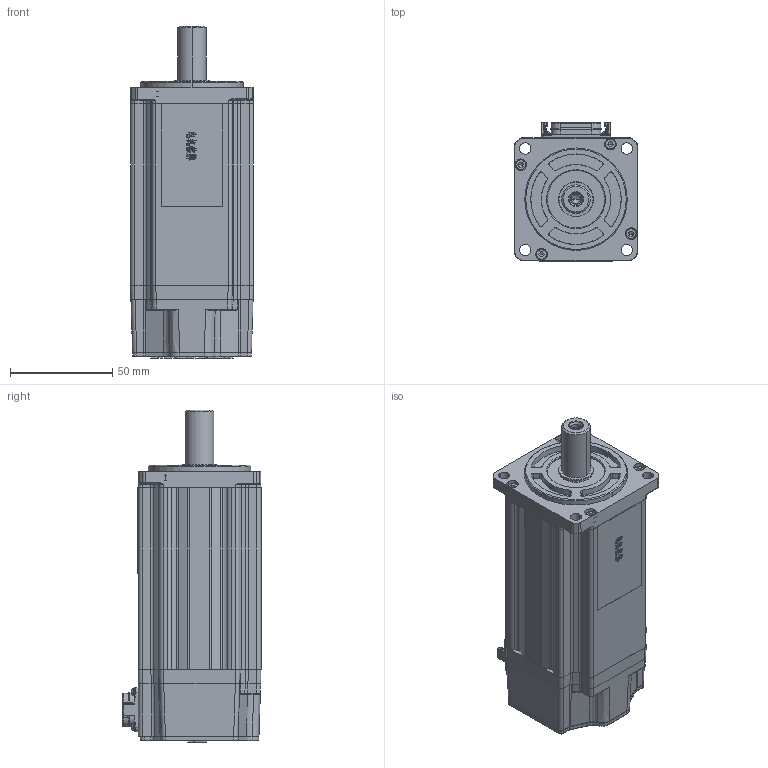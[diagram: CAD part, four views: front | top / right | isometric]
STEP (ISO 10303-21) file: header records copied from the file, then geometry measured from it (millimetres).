
FILE_DESCRIPTION (( 'STEP AP203' ), '1' );
FILE_NAME ('MC20-060-3L30-N401-1¡õCL-NNNN.STEP', '2026-04-19T15:10:34', ( '' ), ( '' ), 'SwSTEP 2.0', 'SolidWorks 2014', '' );
FILE_SCHEMA (( 'CONFIG_CONTROL_DESIGN' ));
Products named in the file (1): MC20-060-3L30-N401-1¡õCL-NNNN
Bounding box: 60 x 67.55 x 162 mm (x, y, z)
Volume: 427101.1 mm3; surface area: 76451.6 mm2
Topology: 10 solids, 14 shells, 2348 faces, 6320 edges, 4074 vertices
Faces by surface type: plane 1104, cylinder 554, bspline 484, cone 170, torus 36
Entity records: 96334 total; most frequent: CARTESIAN_POINT 41744, ORIENTED_EDGE 12514, DIRECTION 9418, EDGE_CURVE 6257, VERTEX_POINT 4074, LINE 3680, VECTOR 3680, AXIS2_PLACEMENT_3D 2869
